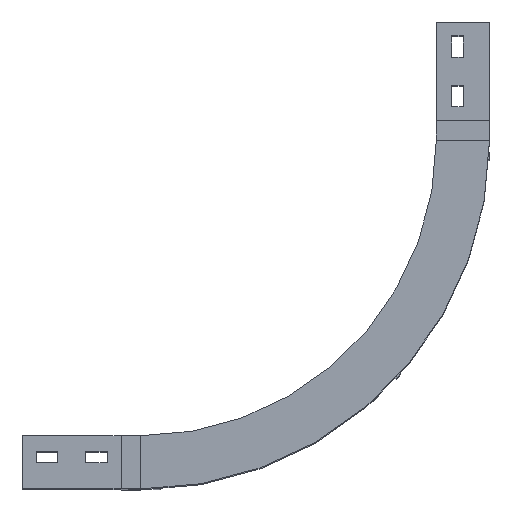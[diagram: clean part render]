
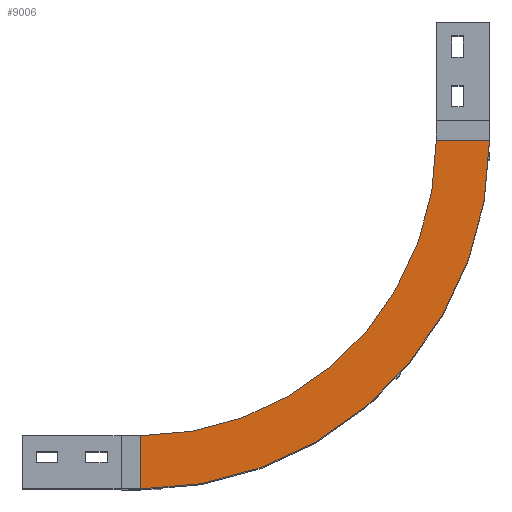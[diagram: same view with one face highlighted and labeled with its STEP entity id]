
A CAD part, top view. The second image highlights one B-rep face of the part: STEP entity #9006.
In plain terms, the highlighted planar face has unit normal (0, 0, 1).
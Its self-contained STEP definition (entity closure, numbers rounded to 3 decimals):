
#469=CIRCLE('',#9483,300.);
#470=CIRCLE('',#9484,354.);
#862=FACE_OUTER_BOUND('',#1326,.T.);
#1326=EDGE_LOOP('',(#6077,#6078,#6079,#6080));
#1973=LINE('',#12506,#2913);
#1977=LINE('',#12517,#2917);
#2913=VECTOR('',#10179,304.8);
#2917=VECTOR('',#10189,304.8);
#3853=VERTEX_POINT('',#12504);
#3854=VERTEX_POINT('',#12505);
#3857=VERTEX_POINT('',#12513);
#3858=VERTEX_POINT('',#12515);
#4741=EDGE_CURVE('',#3853,#3854,#1973,.T.);
#4745=EDGE_CURVE('',#3857,#3854,#469,.T.);
#4746=EDGE_CURVE('',#3853,#3858,#470,.T.);
#4747=EDGE_CURVE('',#3857,#3858,#1977,.T.);
#6077=ORIENTED_EDGE('',*,*,#4745,.T.);
#6078=ORIENTED_EDGE('',*,*,#4741,.F.);
#6079=ORIENTED_EDGE('',*,*,#4746,.T.);
#6080=ORIENTED_EDGE('',*,*,#4747,.F.);
#8738=PLANE('',#9482);
#9006=ADVANCED_FACE('',(#862),#8738,.T.);
#9482=AXIS2_PLACEMENT_3D('',#12512,#10183,#10184);
#9483=AXIS2_PLACEMENT_3D('',#12514,#10185,#10186);
#9484=AXIS2_PLACEMENT_3D('',#12516,#10187,#10188);
#10179=DIRECTION('',(0.,1.,0.));
#10183=DIRECTION('center_axis',(0.,0.,1.));
#10184=DIRECTION('ref_axis',(0.,-1.,0.));
#10185=DIRECTION('center_axis',(0.,0.,-1.));
#10186=DIRECTION('ref_axis',(0.,-1.,0.));
#10187=DIRECTION('center_axis',(0.,0.,1.));
#10188=DIRECTION('ref_axis',(0.,-1.,0.));
#10189=DIRECTION('',(1.,0.,0.));
#12504=CARTESIAN_POINT('',(-327.,-27.,305.5));
#12505=CARTESIAN_POINT('',(-327.,27.,305.5));
#12506=CARTESIAN_POINT('',(-327.,-27.,305.5));
#12512=CARTESIAN_POINT('Origin',(-327.,327.,305.5));
#12513=CARTESIAN_POINT('',(-27.,327.,305.5));
#12514=CARTESIAN_POINT('Origin',(-327.,327.,305.5));
#12515=CARTESIAN_POINT('',(27.,327.,305.5));
#12516=CARTESIAN_POINT('Origin',(-327.,327.,305.5));
#12517=CARTESIAN_POINT('',(-27.,327.,305.5));
